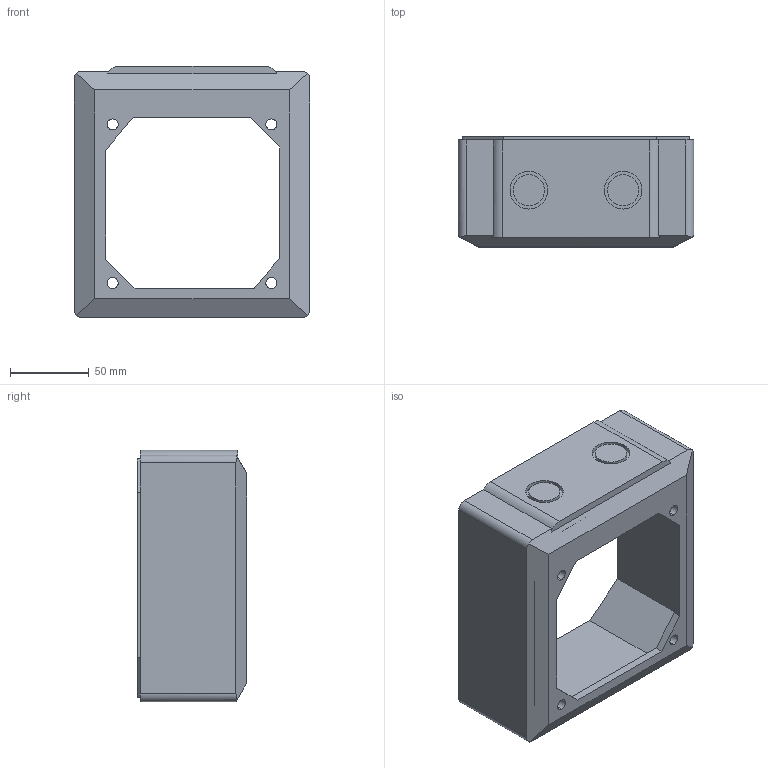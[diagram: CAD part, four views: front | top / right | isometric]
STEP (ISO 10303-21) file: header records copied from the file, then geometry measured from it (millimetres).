
FILE_DESCRIPTION (( 'STEP AP203' ), '1' );
FILE_NAME ('160諉盄碟釱.STEP', '2023-02-21T10:23:34', ( '' ), ( '' ), 'SwSTEP 2.0', 'SolidWorks 2018', '' );
FILE_SCHEMA (( 'CONFIG_CONTROL_DESIGN' ));
Length unit declared in the file: millimetre
Products named in the file (1): 160諉盄碟釱
Bounding box: 150 x 70 x 160 mm (x, y, z)
Volume: 302298.6 mm3; surface area: 101459.8 mm2
Topology: 1 solids, 1 shells, 77 faces, 195 edges, 130 vertices
Faces by surface type: plane 47, cylinder 30
Entity records: 2422 total; most frequent: CARTESIAN_POINT 433, DIRECTION 397, ORIENTED_EDGE 390, EDGE_CURVE 195, AXIS2_PLACEMENT_3D 134, VERTEX_POINT 130, LINE 129, VECTOR 129
